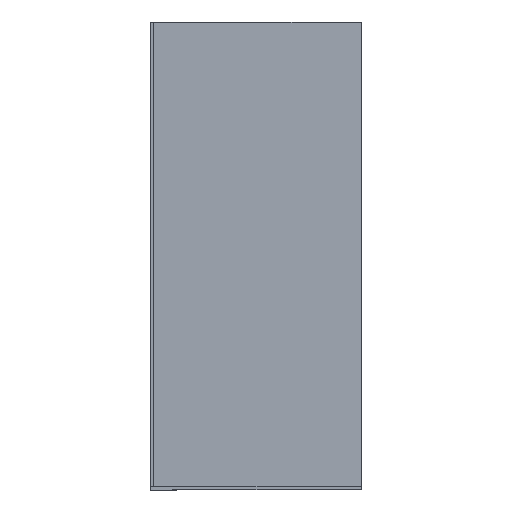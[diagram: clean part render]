
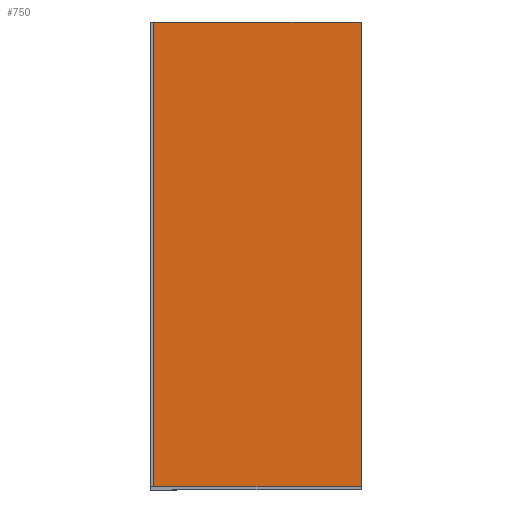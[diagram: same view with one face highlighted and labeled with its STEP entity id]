
A CAD part, front view. The second image highlights one B-rep face of the part: STEP entity #750.
In plain terms, the highlighted planar face has unit normal (0, -1, 0) as drawn and (0, 1, 0) by its records, which use the part's own axes.
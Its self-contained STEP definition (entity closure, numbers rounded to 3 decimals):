
#86=FACE_OUTER_BOUND($,#126,.T.);
#126=EDGE_LOOP($,(#523,#524,#525,#526));
#190=LINE($,#1097,#274);
#191=LINE($,#1100,#275);
#192=LINE($,#1102,#276);
#193=LINE($,#1103,#277);
#274=VECTOR($,#877,1997.);
#275=VECTOR($,#880,897.);
#276=VECTOR($,#881,897.);
#277=VECTOR($,#882,1997.);
#355=VERTEX_POINT($,#1090);
#358=VERTEX_POINT($,#1095);
#359=VERTEX_POINT($,#1099);
#360=VERTEX_POINT($,#1101);
#426=EDGE_CURVE($,#355,#358,#190,.T.);
#427=EDGE_CURVE($,#359,#355,#191,.T.);
#428=EDGE_CURVE($,#360,#358,#192,.T.);
#429=EDGE_CURVE($,#359,#360,#193,.T.);
#523=ORIENTED_EDGE($,*,*,#427,.T.);
#524=ORIENTED_EDGE($,*,*,#426,.T.);
#525=ORIENTED_EDGE($,*,*,#428,.F.);
#526=ORIENTED_EDGE($,*,*,#429,.F.);
#712=PLANE($,#805);
#750=ADVANCED_FACE($,(#86),#712,.T.);
#805=AXIS2_PLACEMENT_3D($,#1098,#878,#879);
#877=DIRECTION($,(0.,0.,1.));
#878=DIRECTION('center_axis',(0.,1.,0.));
#879=DIRECTION('ref_axis',(-1.,0.,0.));
#880=DIRECTION($,(-1.,0.,0.));
#881=DIRECTION($,(-1.,0.,0.));
#882=DIRECTION($,(0.,0.,1.));
#1090=CARTESIAN_POINT('',(0.,10.,0.));
#1095=CARTESIAN_POINT('',(0.,10.,1997.));
#1097=CARTESIAN_POINT($,(0.,10.,0.));
#1098=CARTESIAN_POINT('Origin',(897.,10.,0.));
#1099=CARTESIAN_POINT('',(897.,10.,0.));
#1100=CARTESIAN_POINT($,(897.,10.,0.));
#1101=CARTESIAN_POINT('',(897.,10.,1997.));
#1102=CARTESIAN_POINT($,(897.,10.,1997.));
#1103=CARTESIAN_POINT($,(897.,10.,0.));
